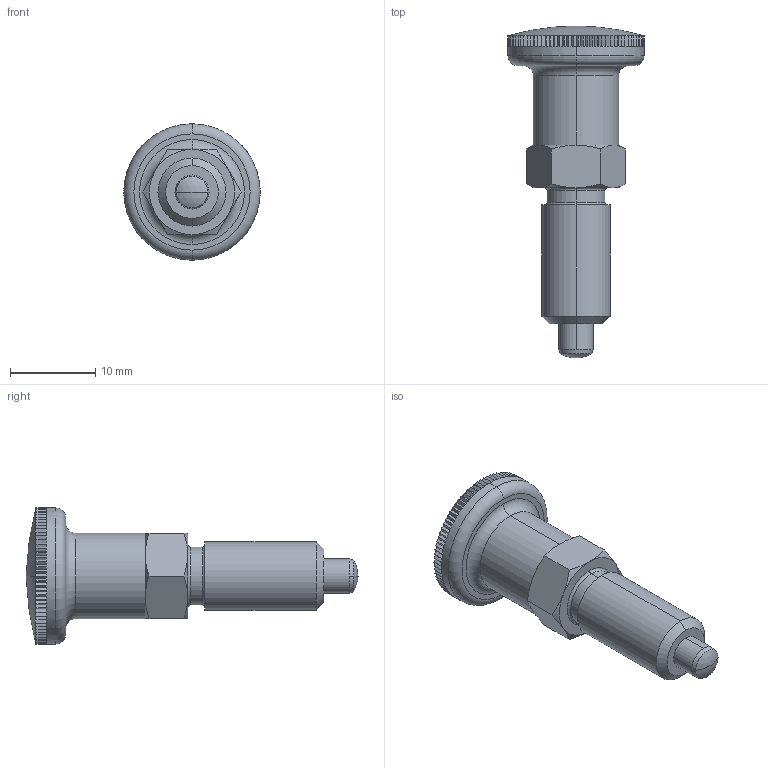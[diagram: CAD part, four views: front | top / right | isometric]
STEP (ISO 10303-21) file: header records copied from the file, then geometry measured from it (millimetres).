
FILE_DESCRIPTION (( 'STEP AP203' ), '1' );
FILE_NAME ('32690.W0223.step', '2011-03-25T12:23:09', ( 'Wixroyd' ), ( 'Wixroyd' ), 'SwSTEP 2.0', 'SolidWorks 2009', '' );
FILE_SCHEMA (( 'CONFIG_CONTROL_DESIGN' ));
Length unit declared in the file: millimetre
Products named in the file (4): Part1_3269.W223; Part2_3269.W223; Part3_3269.W223; 32690.W0223
Assembly tree (3 placements, depth 2):
  32690.W0223
    Part2_3269.W223
    Part3_3269.W223
    Part1_3269.W223
Bounding box: 16 x 39 x 16 mm (x, y, z)
Volume: 2647.2 mm3; surface area: 2697 mm2
Topology: 3 solids, 3 shells, 354 faces, 814 edges, 472 vertices
Faces by surface type: plane 305, cylinder 21, cone 16, torus 8, sphere 4
Entity records: 10352 total; most frequent: DIRECTION 1870, CARTESIAN_POINT 1766, ORIENTED_EDGE 1628, EDGE_CURVE 814, AXIS2_PLACEMENT_3D 720, VERTEX_POINT 472, VECTOR 430, LINE 430
